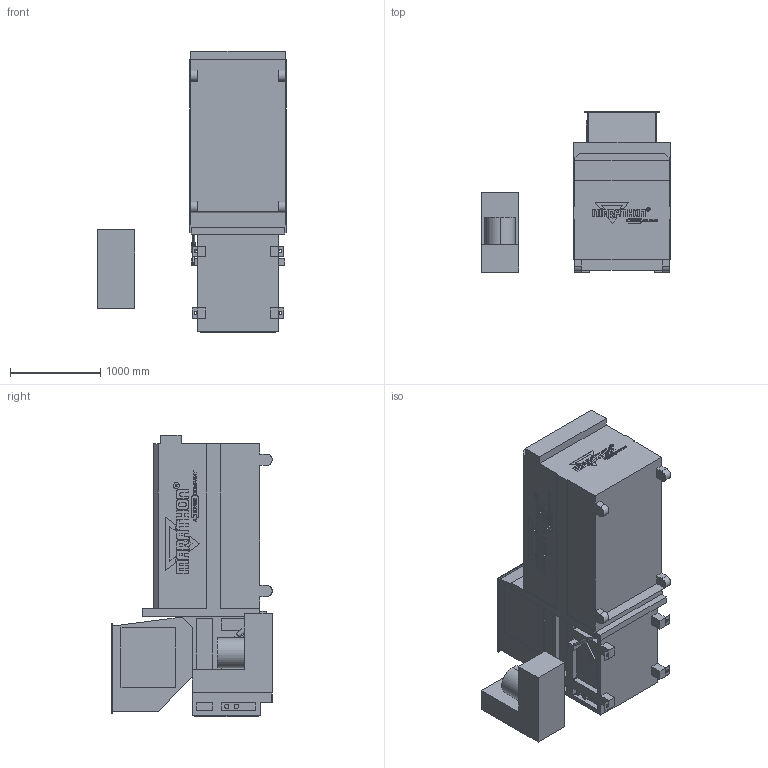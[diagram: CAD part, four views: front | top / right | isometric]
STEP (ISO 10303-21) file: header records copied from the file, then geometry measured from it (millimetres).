
FILE_DESCRIPTION((''),'2;1');
FILE_NAME('MINIMAC','2018-09-27T14:48:00',('10006800'),(''),'CREO PARAMETRIC BY PTC INC, 2017110','CREO PARAMETRIC BY PTC INC, 2017110','');
FILE_SCHEMA(('CONFIG_CONTROL_DESIGN'));
Length unit declared in the file: inch
Products named in the file (1): MINIMAC
Bounding box: 2090.74 x 1778 x 3117.85 mm (x, y, z)
Volume: 1230762008.7 mm3; surface area: 36217412.1 mm2
Topology: 3 solids, 3 shells, 2181 faces, 6012 edges, 4004 vertices
Faces by surface type: plane 1970, cylinder 211
Entity records: 68383 total; most frequent: CARTESIAN_POINT 12230, ORIENTED_EDGE 12024, DIRECTION 10784, EDGE_CURVE 6012, VECTOR 5582, LINE 5582, VERTEX_POINT 4004, AXIS2_PLACEMENT_3D 2601
